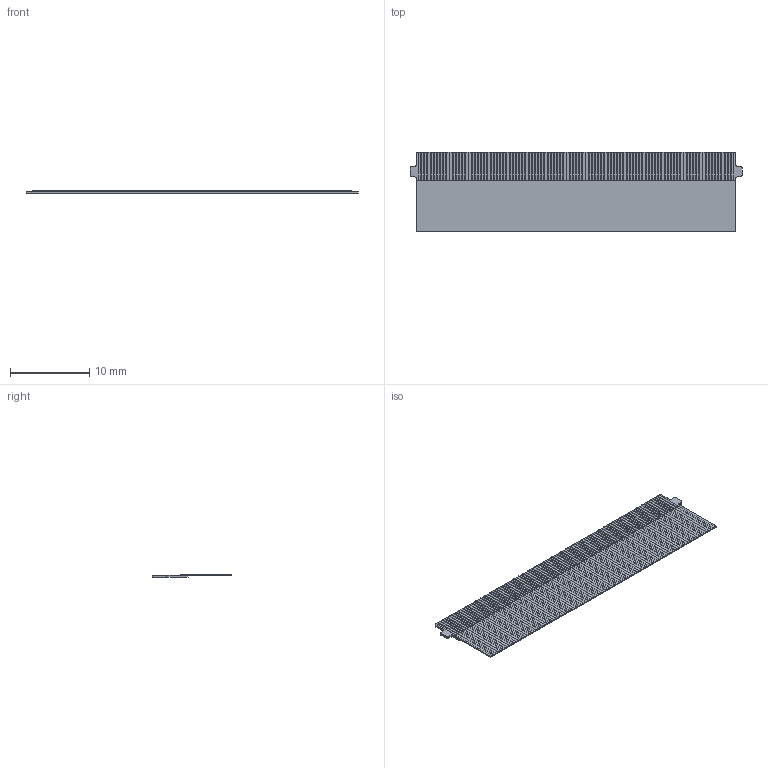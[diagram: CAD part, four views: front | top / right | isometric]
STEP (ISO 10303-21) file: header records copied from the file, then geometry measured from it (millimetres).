
FILE_DESCRIPTION (( 'STEP AP214' ), '1' );
FILE_NAME ('FH75M-100S-0.4SH(05)_FPC.STEP', '2024-10-07T09:08:51', ( '' ), ( '' ), 'SwSTEP 2.0', 'SolidWorks 2021', '' );
FILE_SCHEMA (( 'AUTOMOTIVE_DESIGN' ));
Length unit declared in the file: millimetre
Products named in the file (1): FH75M-100S-0.4SH(05)_FPC
Bounding box: 42 x 10 x 0.34 mm (x, y, z)
Volume: 85.7 mm3; surface area: 4593.6 mm2
Topology: 307 solids, 307 shells, 1932 faces, 3954 edges, 2636 vertices
Faces by surface type: plane 1882, cylinder 50
Entity records: 71248 total; most frequent: CARTESIAN_POINT 8523, DIRECTION 7920, ORIENTED_EDGE 7908, EDGE_CURVE 3954, LINE 3854, VECTOR 3854, VERTEX_POINT 2636, AXIS2_PLACEMENT_3D 2033
